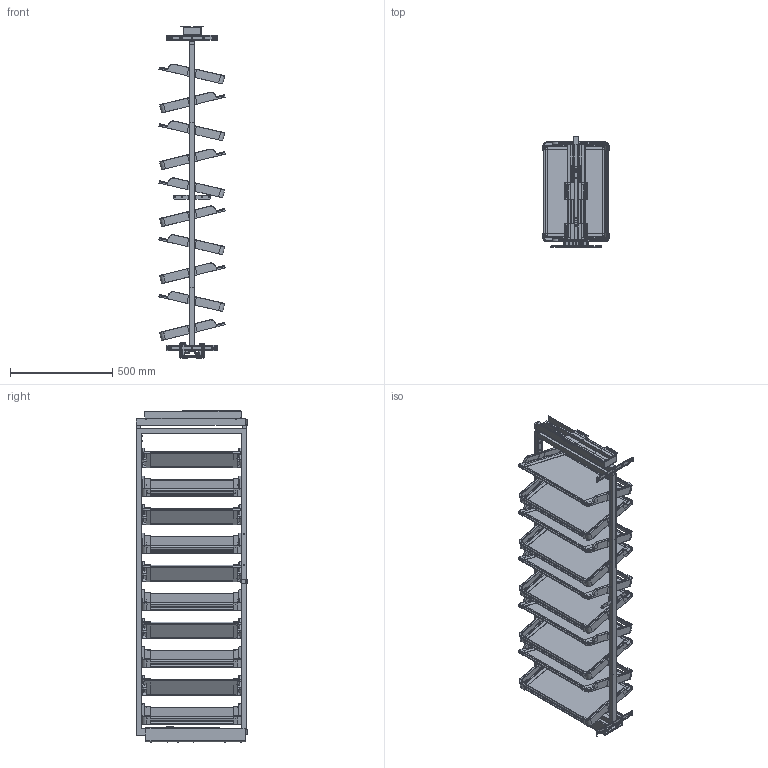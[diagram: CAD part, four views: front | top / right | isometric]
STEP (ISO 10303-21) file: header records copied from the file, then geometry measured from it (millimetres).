
FILE_DESCRIPTION(/* description */ ('STEP AP242 Edition 2','CAx-IF Rec.Pracs.---Representation and Presentation of Product Manufacturing Information (PMI)---4.0---2014-10-13','CAx-IF Rec.Pracs.---3D Tessellated Geometry---0.4---2014-09-14','2;1','CAx-IF Rec.Pracs.---User Defined Attributes---1.5---2016-08-15'),/* implementation_level */ '2;1');
FILE_NAME(/* name */ '6a0465c1cfd309d401985b55',/* time_stamp */ '2026-05-13T11:51:31Z',/* author */ (''),/* organization */ (''),/* preprocessor_version */ 'ST-DEVELOPER v20',/* originating_system */ 'ONSHAPE BY PTC INC, 1.214',/* authorisation */ ' ');
FILE_SCHEMA (('AP242_MANAGED_MODEL_BASED_3D_ENGINEERING_MIM_LF { 1 0 10303 442 3 1 4 }'));
Length unit declared in the file: millimetre
Products named in the file (48): 500 assembly 10; kolko; Part 8; obudowa posrednia; plastik; obudowa wewnetrzna; PZ Raised countersunk head screw M4x0.70 x 4; plasticzek; Part 4; rama; mechanizm wewnetrzny; Part 2; obudowa dolna; gorna rama; mechanizm; Part 1; PZ Raised countersunk head screw M2x0.40 x 4; polka 500 assembly <9>; Part 3; polka 500 assembly <3>; Part 5; Part 7; polka 500 assembly <6>; polka 500 assembly <1>; kolko1; Part 9; polka 500 assembly <2>; polka 500 assembly <7>; polka 500 assembly <4>; PH Countersunk flat head screw M4x0.7 x 6; polka 500 assembly <5>; polka 500 assembly <8>; polka 500 assembly <10>; Part 6
Assembly tree (136 placements, depth 3):
  500 assembly 10
    kolko  x4
    Part 8
    obudowa posrednia
    plastik
    obudowa wewnetrzna
    PZ Raised countersunk head screw M4x0.70 x 4  x2
    plasticzek  x2
    Part 4  x2
    rama
    mechanizm wewnetrzny
    Part 2
    obudowa dolna
    kolko  x4
    gorna rama
    mechanizm
    Part 1  x2
    PZ Raised countersunk head screw M2x0.40 x 4  x4
    Part 1
    polka 500 assembly <9>
      Part 1
      Part 1  x2
      Part 4
      Part 1
      Part 3
      Part 2
      Part 2
    Part 3
    polka 500 assembly <3>
      Part 2
      Part 2
      Part 4
      Part 1
      Part 3
      Part 1
      Part 1  x2
    Part 2  x2
    Part 3  x3
    Part 5
    Part 7
    Part 4
    polka 500 assembly <6>
      Part 2
      Part 1  x2
      Part 2
      Part 1
      Part 4
      Part 3
      Part 1
    polka 500 assembly <1>
      Part 1
      Part 2
      Part 2
      Part 3
      Part 4
      Part 1  x2
      Part 1
    kolko1
    Part 9
    polka 500 assembly <2>
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Bounding box: 323.66 x 544 x 1622 mm (x, y, z)
Volume: 13999389 mm3; surface area: 7802993.1 mm2
Topology: 126 solids, 126 shells, 3571 faces, 8855 edges, 5727 vertices
Faces by surface type: plane 2314, cylinder 1007, torus 143, cone 75, bspline 26, sphere 6
Full cylindrical faces by diameter (mm): 2 x14, 2.5 x1, 3.7 x7, 3.8 x4, 4 x21, 4.35 x2, 4.4 x7, 5 x12, 6 x155, 7 x28, 7.9 x2, 8 x4, 8.4 x3, 9 x2, 9.9 x4, 10 x1, 11 x2, 12 x10, 12.5 x8, 13 x4, 14 x8, 16 x7, 20 x8, 21 x2, 28 x8, 29 x2
Entity records: 40157 total; most frequent: CARTESIAN_POINT 7159, DIRECTION 6676, ORIENTED_EDGE 5900, EDGE_CURVE 2950, AXIS2_PLACEMENT_3D 2360, VERTEX_POINT 2057, FACE_BOUND 2019, EDGE_LOOP 2016
